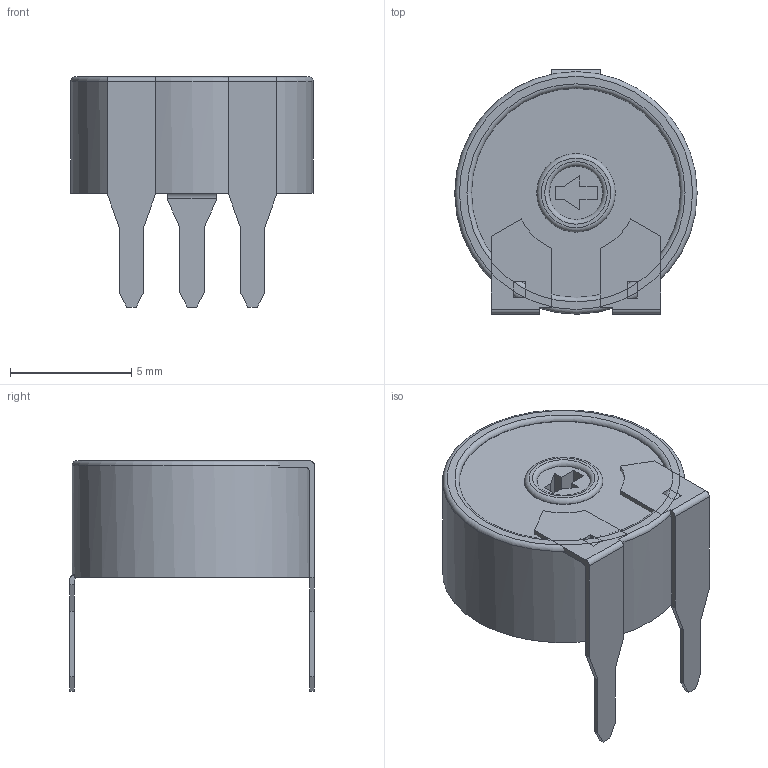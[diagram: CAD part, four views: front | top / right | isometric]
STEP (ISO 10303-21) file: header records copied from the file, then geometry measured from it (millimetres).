
FILE_DESCRIPTION(('FreeCAD Model'),'2;1');
FILE_NAME('Open CASCADE Shape Model','2022-02-23T16:02:01',('Author'),( ''),'Open CASCADE STEP processor 7.5','FreeCAD','Unknown');
FILE_SCHEMA(('AUTOMOTIVE_DESIGN { 1 0 10303 214 1 1 1 1 }'));
Length unit declared in the file: millimetre
Products named in the file (5): Part; Body; Pin; Middle; Pin2
Assembly tree (4 placements, depth 2):
  Part
    Body
    Pin
    Middle
    Pin2
Bounding box: 10 x 10.1 x 9.5 mm (x, y, z)
Volume: 381 mm3; surface area: 799.3 mm2
Topology: 4 solids, 4 shells, 107 faces, 284 edges, 187 vertices
Faces by surface type: plane 84, cylinder 18, torus 4, cone 1
Full cylindrical faces by diameter (mm): 2.2 x1, 2.8 x1, 3 x1, 3.239 x1, 8.62 x1, 10 x1
Entity records: 7178 total; most frequent: CARTESIAN_POINT 1245, DIRECTION 1116, LINE 746, VECTOR 746, ORIENTED_EDGE 568, PCURVE 568, DEFINITIONAL_REPRESENTATION 568, EDGE_CURVE 284
